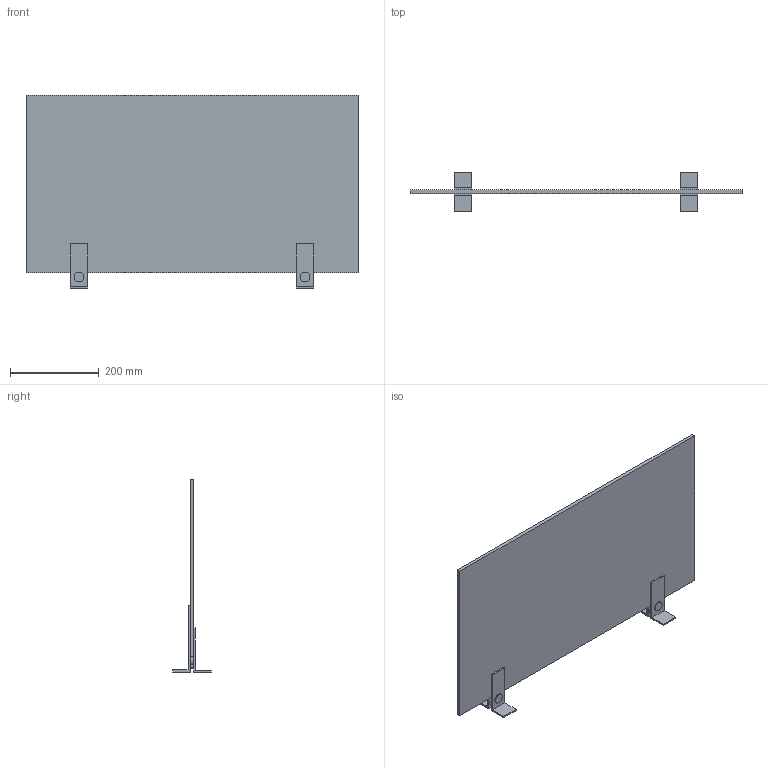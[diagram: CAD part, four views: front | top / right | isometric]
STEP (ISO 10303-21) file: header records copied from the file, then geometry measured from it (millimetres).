
FILE_DESCRIPTION( ( 'STEP AP214' ), '1' );
FILE_NAME( 'D:/Yug/2022/Actiforce_2022/QC/9309841.stp', '2022-03-02T07:22:53', ( '' ), ( '' ), ' ', 'PARTsolutions', ' ' );
FILE_SCHEMA( ( 'AUTOMOTIVE_DESIGN { 1 0 10303 214 1 1 1 1 }' ) );
Length unit declared in the file: millimetre
Products named in the file (3): 9309841; _9309840; _9309841_2
Assembly tree (3 placements, depth 2):
  9309841
    _9309840  x2
    _9309841_2
Bounding box: 750 x 88 x 436 mm (x, y, z)
Volume: 2519397.4 mm3; surface area: 677990.6 mm2
Topology: 3 solids, 3 shells, 72 faces, 158 edges, 106 vertices
Faces by surface type: plane 64, cylinder 8
Full cylindrical faces by diameter (mm): 9 x4, 20 x2, 22 x2
Entity records: 1400 total; most frequent: CARTESIAN_POINT 179, DIRECTION 174, ORIENTED_EDGE 160, EDGE_CURVE 80, LINE 72, VECTOR 72, VERTEX_POINT 56, AXIS2_PLACEMENT_3D 51
